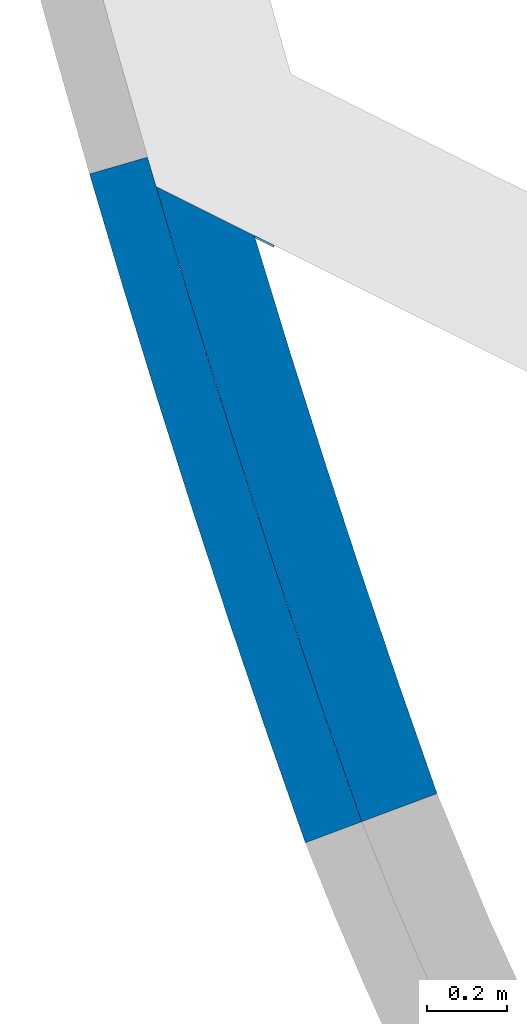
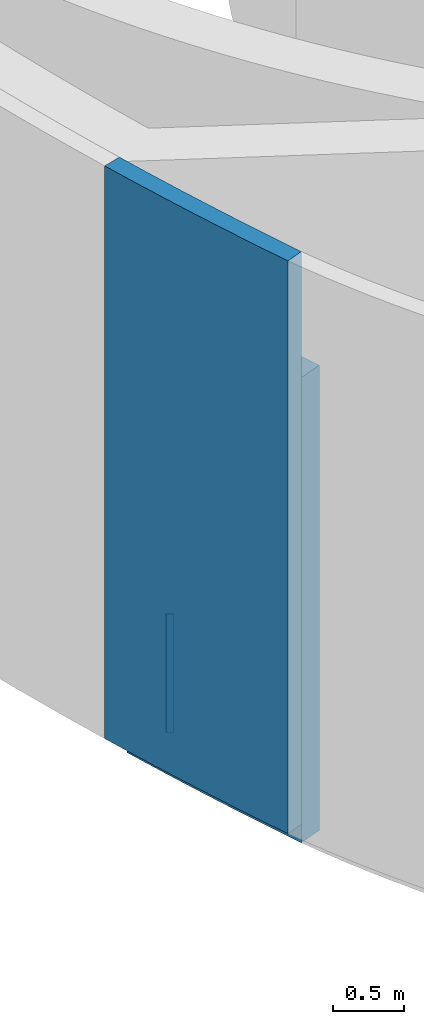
# One storey, part 4 of 47: 3 walls.
"""IFC2X3 building model written with IfcOpenShell, lengths in metres."""

from ifc_helpers import new_model, entity, si_unit, converted_unit, derived_unit, direction, frame, frame_2d, origin, place, context, subcontext, project, spatial, polyline, circle_curve, parameter, trimmed, segment, composite_curve, outline, extrude, material, layer, layer_set, layer_usage, type_object, element, save


model = new_model("IFC2X3")

# Units and contexts
model_context = context("Model", 3, precision=1e-05, world=origin(), true_north=direction((0.894925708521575, 0.446215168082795)))
context_of_model = context(None, 3, precision=1e-05, world=origin(), true_north=direction((0.894925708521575, 0.446215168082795)))
body_context = subcontext(model_context, "Body", "Model", "MODEL_VIEW")
ifc_project = project(units=[si_unit("LENGTHUNIT", "METRE"), si_unit("AREAUNIT", "SQUARE_METRE"), si_unit("VOLUMEUNIT", "CUBIC_METRE"), converted_unit("PLANEANGLEUNIT", "DEGREE", entity("IfcRatioMeasure", 0.0174532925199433), si_unit("PLANEANGLEUNIT", "RADIAN"), dimensions=[0, 0, 0, 0, 0, 0, 0]), si_unit("MASSUNIT", "GRAM", prefix="KILO"), si_unit("TIMEUNIT", "SECOND"), si_unit("FREQUENCYUNIT", "HERTZ"), si_unit("THERMODYNAMICTEMPERATUREUNIT", "DEGREE_CELSIUS"), derived_unit("THERMALTRANSMITTANCEUNIT", [(si_unit("MASSUNIT", "GRAM", prefix="KILO"), 1), (si_unit("THERMODYNAMICTEMPERATUREUNIT", "KELVIN"), -1), (si_unit("TIMEUNIT", "SECOND"), -3)]), derived_unit("VOLUMETRICFLOWRATEUNIT", [(si_unit("LENGTHUNIT", "METRE"), 3), (si_unit("TIMEUNIT", "SECOND"), -1)]), si_unit("ELECTRICCURRENTUNIT", "AMPERE"), si_unit("ELECTRICVOLTAGEUNIT", "VOLT"), si_unit("POWERUNIT", "WATT"), si_unit("FORCEUNIT", "NEWTON", prefix="KILO"), si_unit("ILLUMINANCEUNIT", "LUX"), si_unit("LUMINOUSFLUXUNIT", "LUMEN"), si_unit("LUMINOUSINTENSITYUNIT", "CANDELA"), si_unit("PRESSUREUNIT", "PASCAL")], contexts=[model_context, context_of_model])

# Site, building, storey
site_placement = place(None, frame((218.228324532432, 584.720189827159, 0.0), z_axis=(0.0, 0.0, 1.0), x_axis=(0.446215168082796, 0.894925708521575, 0.0)))
site = spatial("IfcSite", under=ifc_project, at=site_placement, Name="Default", CompositionType="ELEMENT")
building_placement = place(site_placement, origin())
building = spatial("IfcBuilding", under=site, at=building_placement, CompositionType="ELEMENT")
storey_placement = place(building_placement, frame((0.0, 0.0, 4.69)))
storey = spatial("IfcBuildingStorey", under=building, at=storey_placement, Name="1 - Piano Primo", CompositionType="ELEMENT", Elevation=4.69)

# Walls
ifc_material_1 = material(Name="Sabbia e Calcestruzzo")
ifc_layer_1 = layer(ifc_material_1, 0.2)
ifc_layer_set_1 = layer_set([ifc_layer_1], Name="Muro di base:Blocchetti - 20 cm")
ifc_layer_usage_1 = layer_usage(ifc_layer_set_1, "AXIS2", "POSITIVE", -0.1)
wall_type_1 = type_object("IfcWallType", Name="Muro di base:Blocchetti - 20 cm", PredefinedType="STANDARD", material=ifc_layer_set_1)
wall_1_placement = place(storey_placement, frame((-83.0539183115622, 1.25489317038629, -0.159999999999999)))
element("IfcWallStandardCase", 1, at=wall_1_placement, inside=storey, type_object=wall_type_1, material=ifc_layer_usage_1, Name="Muro di base:Blocchetti - 20 cm", ObjectType="Muro di base:Blocchetti - 20 cm", context=body_context, shape_type="SweptSolid", body=[
    extrude(outline(composite_curve([segment(trimmed(circle_curve(frame_2d((21.258177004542, -20.4862644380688), x_axis=(1.0, 0.0)), 29.6228237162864), [parameter(132.845537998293)], [parameter(136.059357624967)], True, "PARAMETER"), True, "CONTINUOUS"), segment(polyline([(-0.0720059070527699, 0.0693912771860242), (0.0742739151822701, -0.0670380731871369)]), True, "CONTINUOUS"), segment(trimmed(circle_curve(frame_2d((21.258177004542, -20.4862644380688), x_axis=(1.0, 0.0)), 29.4228237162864), [parameter(133.207826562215)], [parameter(136.05299329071)], True, "PARAMETER"), False, "CONTINUOUS"), segment(polyline([(1.11393854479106, 0.959299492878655), (1.11393854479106, 1.23288245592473)]), True, "CONTINUOUS")], self_intersect=False)), origin(), (0.0, 0.0, 1.0), 4.02),
])
ifc_material_2 = material(Name="Alluminio")
ifc_layer_2 = layer(ifc_material_2, 0.15)
ifc_layer_set_2 = layer_set([ifc_layer_2], Name="Muro di base:Rivestimento 15 cm")
ifc_layer_usage_2 = layer_usage(ifc_layer_set_2, "AXIS2", "POSITIVE", -0.075)
wall_type_2 = type_object("IfcWallType", Name="Muro di base:Rivestimento 15 cm", PredefinedType="STANDARD", material=ifc_layer_set_2)
wall_2_placement = place(storey_placement, frame((-83.1816143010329, 1.37457859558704, 0.0)))
element("IfcWallStandardCase", 2, at=wall_2_placement, inside=storey, type_object=wall_type_2, material=ifc_layer_usage_2, Name="Muro di base:Rivestimento 15 cm", ObjectType="Muro di base:Rivestimento 15 cm", context=body_context, shape_type="SweptSolid", body=[
    extrude(outline(composite_curve([segment(trimmed(circle_curve(frame_2d((21.3858729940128, -20.6059498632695), x_axis=(1.0, 0.0)), 29.7728237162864), [parameter(132.698351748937)], [parameter(136.064044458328)], True, "PARAMETER"), True, "CONTINUOUS"), segment(polyline([(-0.0540086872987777, 0.0520390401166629), (0.0556900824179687, -0.0502941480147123)]), True, "CONTINUOUS"), segment(trimmed(circle_curve(frame_2d((21.3858729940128, -20.6059498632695), x_axis=(1.0, 0.0)), 29.6228237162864), [parameter(132.698351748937)], [parameter(136.059357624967)], True, "PARAMETER"), False, "CONTINUOUS"), segment(polyline([(1.29749492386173, 1.16487353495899), (1.19577414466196, 1.27511365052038)]), True, "CONTINUOUS")], self_intersect=False)), origin(), (0.0, 0.0, 1.0), 4.95),
])
ifc_layer_3 = layer(ifc_material_1, 0.005)
ifc_layer_set_3 = layer_set([ifc_layer_3], Name="Muro di base:Malta di raccordo")
ifc_layer_usage_3 = layer_usage(ifc_layer_set_3, "AXIS2", "POSITIVE", -0.0025)
wall_type_3 = type_object("IfcWallType", Name="Muro di base:Malta di raccordo", PredefinedType="STANDARD", material=ifc_layer_set_3)
wall_3_placement = place(storey_placement, frame((-81.942479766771, 2.21419266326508, 0.0), z_axis=(0.0, 0.0, 1.0), x_axis=(0.0, -1.0, 0.0)))
element("IfcWallStandardCase", 3, at=wall_3_placement, inside=storey, type_object=wall_type_3, material=ifc_layer_usage_3, Name="Muro di base:Malta di raccordo", ObjectType="Muro di base:Malta di raccordo", context=body_context, shape_type="SweptSolid", body=[
    extrude(outline(composite_curve([segment(polyline([(0.0556961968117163, -0.00249999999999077), (0.0556961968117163, 0.00250000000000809)]), True, "CONTINUOUS"), segment(polyline([(0.0556961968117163, 0.00250000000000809), (0.0, 0.00250000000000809)]), True, "CONTINUOUS"), segment(trimmed(circle_curve(frame_2d((21.4455639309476, 20.1467384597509), x_axis=(0.0, 1.0)), 29.4228237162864), [parameter(133.207826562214)], [parameter(133.221186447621)], True, "PARAMETER"), True, "CONTINUOUS"), segment(polyline([(0.00469769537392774, -0.00249999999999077), (0.0556961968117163, -0.00249999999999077)]), True, "CONTINUOUS")], self_intersect=False)), origin(), (0.0, 0.0, 1.0), 1.03),
])

save(model, "model.ifc")
